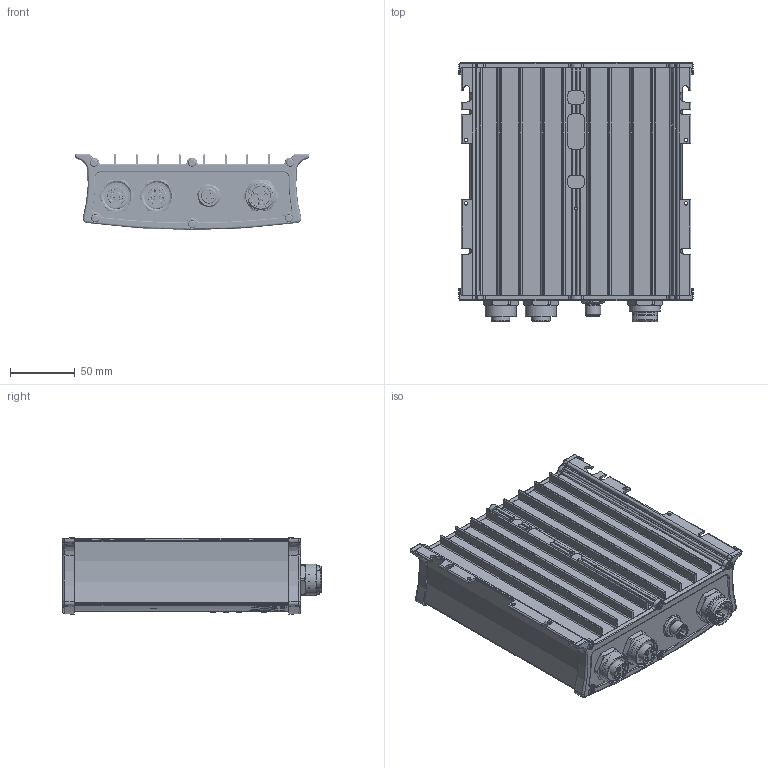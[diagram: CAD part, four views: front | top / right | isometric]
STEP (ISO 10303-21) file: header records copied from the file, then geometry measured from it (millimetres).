
FILE_DESCRIPTION (( 'STEP AP214' ), '1' );
FILE_NAME ('447.38.01.STEP', '2024-07-31T08:36:49', ( '' ), ( '' ), 'SwSTEP 2.0', 'SolidWorks 2024', '' );
FILE_SCHEMA (( 'AUTOMOTIVE_DESIGN' ));
Length unit declared in the file: millimetre
Products named in the file (1): 447.38.01
Bounding box: 180.63 x 199.55 x 58.73 mm (x, y, z)
Volume: 274994.6 mm3; surface area: 354519.1 mm2
Topology: 43 solids, 45 shells, 2692 faces, 7671 edges, 5405 vertices
Faces by surface type: cylinder 951, plane 905, torus 461, cone 253, bspline 120, sphere 2
Full cylindrical faces by diameter (mm): 0.56 x6, 1 x5, 1.3 x3, 1.6 x11, 2 x14, 2.05 x8, 2.2 x11, 2.4 x11, 2.6 x11, 2.7 x4, 3 x23, 3.4 x8, 3.6 x12, 5 x2, 6 x24, 8.3 x1, 10.5 x1, 10.65 x1, 12 x1, 12.15 x1, 13.4 x1, 13.8 x1, 14.3 x2, 17.8 x3, 18.2 x4, 18.5 x1, 19.06 x3, 22.5 x4, 24 x2
Entity records: 160277 total; most frequent: CARTESIAN_POINT 63701, ORIENTED_EDGE 14154, DIRECTION 13002, EDGE_CURVE 7077, AXIS2_PLACEMENT_3D 5257, VERTEX_POINT 5212, EDGE_LOOP 3533, FACE_OUTER_BOUND 3016
